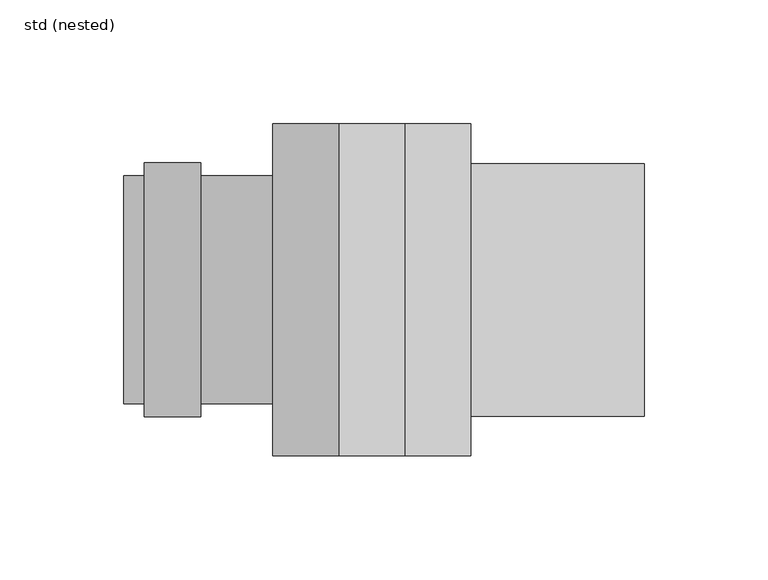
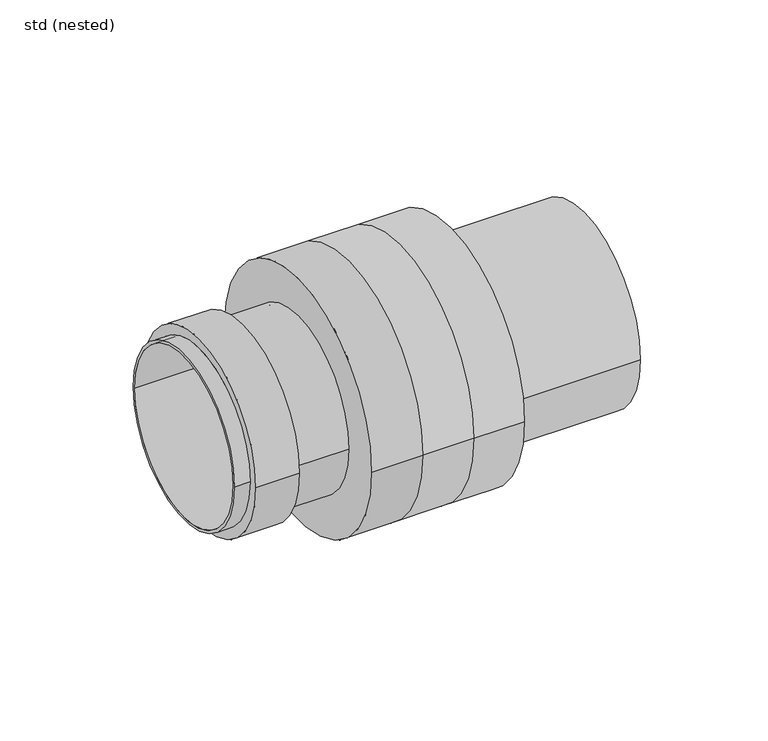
"""IFC4 building model written with IfcOpenShell, lengths in millimetres: pipe fitting geometry, ZZZ_do not use_PIF_ST_WPB_GM-X compound pipe reducer_ACO : std (nested)."""

from ifc_helpers import new_model, si_unit, point, frame, origin, origin_2d, place, context, project, spatial, polyline, circle_curve, trimmed, segment, composite_curve, outline, extrude, source, transform, mapped, element, save
from ifc_brep_helpers import plane_surface, cylinder_surface, revolved_surface, advanced_brep


def std_nested_76065840(model_context):
    return source(origin(), model_context, "Body", "SolidModel", [
        advanced_brep(
        [(-201.8, -51.3, 0.0), (-201.8, 51.3, 0.0), (-179.0, 51.3, 0.0), (-179.0, -51.3, 0.0), (-210.0, 46.0, 0.0), (-210.0, -46.0, 0.0), (-210.0, -44.5, 0.0), (-210.0, 44.5, 0.0), (-150.0, 46.0, 0.0), (-150.0, -46.0, 0.0), (-150.0, 44.5, 0.0), (-150.0, -44.5, 0.0), (-201.8, 46.0, 0.0), (-201.8, -46.0, 0.0), (-179.0, -46.0, 0.0), (-179.0, 46.0, 0.0)],
        [
            (0, 1, circle_curve(frame((-201.8, 0.0, 0.0), z_axis=(1.0, 0.0, 0.0), x_axis=(0.0, -1.0, 0.0)), 51.3)),
            (1, 2),
            (2, 3, circle_curve(frame((-179.0, 0.0, 0.0), z_axis=(-1.0, 0.0, 0.0), x_axis=(0.0, -1.0, 0.0)), 51.3)),
            (3, 0),
            (1, 0, circle_curve(frame((-201.8, 0.0, 0.0), z_axis=(1.0, 0.0, 0.0), x_axis=(0.0, -1.0, 0.0)), 51.3)),
            (3, 2, circle_curve(frame((-179.0, 0.0, 0.0), z_axis=(-1.0, 0.0, 0.0), x_axis=(0.0, -1.0, 0.0)), 51.3)),
            (4, 5, circle_curve(frame((-210.0, 0.0, 0.0), z_axis=(-1.0, 0.0, 0.0), x_axis=(0.0, -1.0, 0.0)), 46.0)),
            (5, 4, circle_curve(frame((-210.0, 0.0, 0.0), z_axis=(-1.0, 0.0, 0.0), x_axis=(0.0, -1.0, 0.0)), 46.0)),
            (6, 7, circle_curve(frame((-210.0, 0.0, 0.0), z_axis=(1.0, 0.0, 0.0), x_axis=(0.0, -1.0, 0.0)), 44.5)),
            (7, 6, circle_curve(frame((-210.0, 0.0, 0.0), z_axis=(1.0, 0.0, 0.0), x_axis=(0.0, -1.0, 0.0)), 44.5)),
            (8, 9, circle_curve(frame((-150.0, 0.0, 0.0), z_axis=(1.0, 0.0, 0.0), x_axis=(0.0, -1.0, 0.0)), 46.0)),
            (9, 8, circle_curve(frame((-150.0, 0.0, 0.0), z_axis=(1.0, 0.0, 0.0), x_axis=(0.0, -1.0, 0.0)), 46.0)),
            (10, 11, circle_curve(frame((-150.0, 0.0, 0.0), z_axis=(-1.0, 0.0, 0.0), x_axis=(0.0, -1.0, 0.0)), 44.5)),
            (11, 10, circle_curve(frame((-150.0, 0.0, 0.0), z_axis=(-1.0, 0.0, 0.0), x_axis=(0.0, -1.0, 0.0)), 44.5)),
            (4, 12),
            (12, 13, circle_curve(frame((-201.8, 0.0, 0.0), z_axis=(-1.0, 0.0, 0.0), x_axis=(0.0, -1.0, 0.0)), 46.0)),
            (13, 5),
            (9, 14),
            (14, 15, circle_curve(frame((-179.0, 0.0, 0.0), z_axis=(1.0, 0.0, 0.0), x_axis=(0.0, -1.0, 0.0)), 46.0)),
            (15, 8),
            (13, 12, circle_curve(frame((-201.8, 0.0, 0.0), z_axis=(-1.0, 0.0, 0.0), x_axis=(0.0, -1.0, 0.0)), 46.0)),
            (15, 14, circle_curve(frame((-179.0, 0.0, 0.0), z_axis=(1.0, 0.0, 0.0), x_axis=(0.0, -1.0, 0.0)), 46.0)),
            (6, 11),
            (10, 7),
        ],
        [
            cylinder_surface(frame((-179.0, 0.0, 0.0), z_axis=(-1.0, 0.0, 0.0), x_axis=(0.0, -1.0, 0.0)), 51.3),
            plane_surface(frame((-210.0, -46.0, 0.0), z_axis=(-1.0, 0.0, 0.0), x_axis=(0.0, 0.0, 1.0))),
            plane_surface(frame((-150.0, -46.0, 0.0), z_axis=(1.0, 0.0, 0.0), x_axis=(0.0, 0.0, -1.0))),
            cylinder_surface(frame((-150.0, 0.0, 0.0), z_axis=(-1.0, 0.0, 0.0), x_axis=(0.0, -1.0, 0.0)), 46.0),
            revolved_surface(polyline([(-210.0, -44.5, 0.0), (-150.0, -44.5, 0.0)]), (-150.0, 0.0, 0.0), (-1.0, 0.0, 0.0)),
            plane_surface(frame((-201.8, -51.3, 0.0), z_axis=(-1.0, 0.0, 0.0), x_axis=(0.0, 0.0, 1.0))),
            plane_surface(frame((-179.0, -51.3, 0.0), z_axis=(1.0, 0.0, 0.0), x_axis=(0.0, 0.0, -1.0))),
        ],
        [
            (0, [[1, 2, 3, 4]]),
            (0, [[5, -4, 6, -2]]),
            (1, [[7, 8], [9, 10]]),
            (2, [[11, 12], [13, 14]]),
            (3, [[-7, 15, 16, 17]]),
            (3, [[-12, 18, 19, 20]]),
            (3, [[-8, -17, 21, -15]]),
            (3, [[-11, -20, 22, -18]]),
            (4, [[23, -13, 24, -9]]),
            (4, [[-23, -10, -24, -14]]),
            (5, [[-1, -5], [-16, -21]]),
            (6, [[-6, -3], [-19, -22]]),
        ],
    ),
        advanced_brep(
        [(-123.3333333, -67.0, 0.0), (-123.3333333, 67.0, 0.0), (-150.0, 67.0, 0.0), (-150.0, -67.0, 0.0), (-96.6666667, 67.0, 0.0), (-96.6666667, -67.0, 0.0), (-70.0, 67.0, 0.0), (-70.0, -67.0, 0.0)],
        [
            (0, 1, circle_curve(frame((-123.3333333, 0.0, 0.0), z_axis=(-1.0, 0.0, 0.0), x_axis=(0.0, 1.0, 0.0)), 67.0)),
            (1, 2),
            (2, 3, circle_curve(frame((-150.0, 0.0, 0.0), z_axis=(1.0, 0.0, 0.0), x_axis=(0.0, 1.0, 0.0)), 67.0)),
            (3, 0),
            (1, 0, circle_curve(frame((-123.3333333, 0.0, 0.0), z_axis=(-1.0, 0.0, 0.0), x_axis=(0.0, 1.0, 0.0)), 67.0)),
            (3, 2, circle_curve(frame((-150.0, 0.0, 0.0), z_axis=(1.0, 0.0, 0.0), x_axis=(0.0, 1.0, 0.0)), 67.0)),
            (1, 4),
            (4, 5, circle_curve(frame((-96.6666667, 0.0, 0.0), z_axis=(-1.0, 0.0, 0.0), x_axis=(0.0, 0.0, -1.0)), 67.0)),
            (5, 0),
            (5, 4, circle_curve(frame((-96.6666667, 0.0, 0.0), z_axis=(-1.0, 0.0, 0.0), x_axis=(0.0, 0.0, 1.0)), 67.0)),
            (6, 7, circle_curve(frame((-70.0, 0.0, 0.0), z_axis=(1.0, 0.0, 0.0), x_axis=(0.0, -1.0, 0.0)), 67.0)),
            (7, 6, circle_curve(frame((-70.0, 0.0, 0.0), z_axis=(1.0, 0.0, 0.0), x_axis=(0.0, -1.0, 0.0)), 67.0)),
            (6, 4),
            (5, 7),
        ],
        [
            cylinder_surface(frame((-123.3333333, 0.0, 0.0), z_axis=(-1.0, 0.0, 0.0), x_axis=(0.0, 1.0, 0.0)), 67.0),
            plane_surface(frame((-150.0, 67.0, 0.0), z_axis=(-1.0, 0.0, 0.0), x_axis=(0.0, 0.0, 1.0))),
            cylinder_surface(frame((-123.3333333, 0.0, 0.0), z_axis=(1.0, 0.0, 0.0), x_axis=(0.0, 0.0, -1.0)), 67.0),
            cylinder_surface(frame((-123.3333333, 0.0, 0.0), z_axis=(1.0, 0.0, 0.0), x_axis=(0.0, 0.0, 1.0)), 67.0),
            plane_surface(frame((-70.0, -67.0, 0.0), z_axis=(1.0, 0.0, 0.0), x_axis=(0.0, 0.0, -1.0))),
            cylinder_surface(frame((-96.6666667, 0.0, 0.0), z_axis=(1.0, 0.0, 0.0), x_axis=(0.0, -1.0, 0.0)), 67.0),
        ],
        [
            (0, [[1, 2, 3, 4]]),
            (0, [[5, -4, 6, -2]]),
            (1, [[-3, -6]]),
            (2, [[7, 8, 9, -5]]),
            (3, [[-7, -1, -9, 10]]),
            (4, [[11, 12]]),
            (5, [[-11, 13, -10, 14]]),
            (5, [[-12, -14, -8, -13]]),
        ],
    ),
        extrude(outline(composite_curve([segment(trimmed(circle_curve(origin_2d(), 51.0), [point((51.0, 0.0))], [point((-51.0, 0.0))], False, "CARTESIAN"), True, "CONTINUOUS"), segment(trimmed(circle_curve(origin_2d(), 51.0), [point((-51.0, 0.0))], [point((51.0, 0.0))], False, "CARTESIAN"), True, "CONTINUOUS")], self_intersect=False)), frame((-70.0, 0.0, 0.0), z_axis=(1.0, 0.0, 0.0), x_axis=(0.0, 1.0, 0.0)), (0.0, 0.0, 1.0), 70.0),
    ])


if __name__ == "__main__":
    model = new_model("IFC4")
    model_context = context("Model", 3, world=origin())
    ifc_project = project(units=[si_unit("LENGTHUNIT", "METRE", prefix="MILLI")], contexts=[model_context])
    site = spatial("IfcSite", under=ifc_project)
    building = spatial("IfcBuilding", under=site)
    placement = place(None, origin())
    std_nested_shape = std_nested_76065840(model_context)
    element("IfcPipeFitting", 1, ObjectType="ZZZ_do not use_PIF_ST_WPB_GM-X compound pipe reducer_ACO : std (nested)", at=placement, inside=building, context=model_context, shape_type="MappedRepresentation", body=[
        mapped(std_nested_shape, transform((0.0, 0.0, 0.0), x_axis=(1.0, 0.0, 0.0), y_axis=(0.0, 1.0, 0.0), z_axis=(0.0, 0.0, 1.0))),
    ])
    save(model, "model.ifc")
